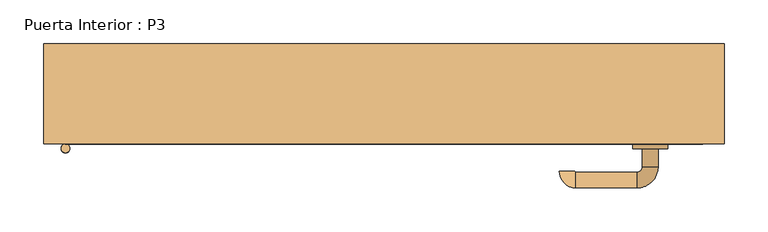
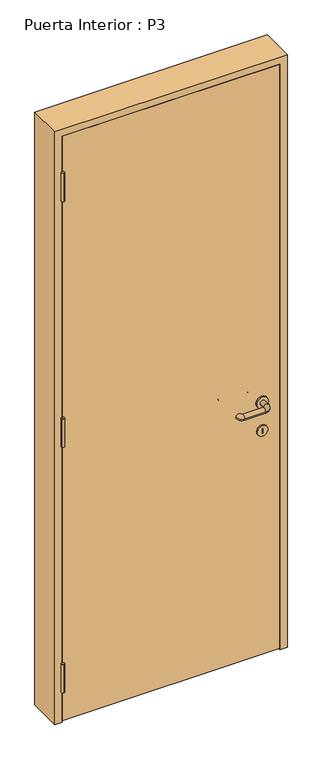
"""IFC4 building model written with IfcOpenShell, lengths in millimetres: door geometry, Puerta Interior : P3."""

from ifc_helpers import new_model, si_unit, point, frame, frame_2d, origin, place, context, project, spatial, polyline, circle_curve, ellipse_curve, trimmed, segment, composite_curve, outline, extrude, faceted_brep, source, transform, mapped, element, save
from ifc_brep_helpers import plane_surface, cylinder_surface, revolved_surface, advanced_brep


def puerta_interior_p3_e72d7386(model_context):
    return source(origin(), model_context, "Body", "SolidModel", [
        extrude(outline(composite_curve([segment(trimmed(circle_curve(frame_2d((900.0, 305.0)), 20.0), [point((900.0, 325.0))], [point((900.0, 285.0))], False, "CARTESIAN"), True, "CONTINUOUS"), segment(trimmed(circle_curve(frame_2d((900.0, 305.0)), 20.0), [point((900.0, 285.0))], [point((900.0, 325.0))], False, "CARTESIAN"), True, "CONTINUOUS")], self_intersect=False)), frame((0.0, -17.5, 0.0), z_axis=(0.0, 1.0, 0.0), x_axis=(0.0, 0.0, 1.0)), (0.0, 0.0, 1.0), 5.0),
        advanced_brep(
        [(296.0, -12.5, 900.0), (314.0, -12.5, 900.0), (314.0, 8.5, 900.0), (296.0, 8.5, 900.0), (290.0, 32.5, 900.0), (290.0, 14.5, 900.0), (219.797959, 32.5, 900.0), (219.797959, 14.5, 900.0), (218.797959, 13.5, 900.0), (200.797959, 13.5, 900.0)],
        [
            (0, 1, circle_curve(frame((305.0, -12.5, 900.0), z_axis=(0.0, -1.0, 0.0), x_axis=(1.0, 0.0, 0.0)), 9.0)),
            (1, 0, circle_curve(frame((305.0, -12.5, 900.0), z_axis=(0.0, -1.0, 0.0), x_axis=(1.0, 0.0, 0.0)), 9.0)),
            (1, 2),
            (2, 3, circle_curve(frame((305.0, 8.5, 900.0), z_axis=(0.0, -1.0, 0.0), x_axis=(1.0, 0.0, 0.0)), 9.0)),
            (3, 0),
            (3, 2, circle_curve(frame((305.0, 8.5, 900.0), z_axis=(0.0, -1.0, 0.0), x_axis=(1.0, 0.0, 0.0)), 9.0)),
            (4, 5, circle_curve(frame((290.0, 23.5, 900.0), z_axis=(1.0, 0.0, 0.0), x_axis=(0.0, 1.0, 0.0)), 9.0)),
            (5, 3, circle_curve(frame((290.0, 8.5, 900.0), z_axis=(0.0, 0.0, -1.0), x_axis=(1.0, 0.0, 0.0)), 6.0)),
            (2, 4, circle_curve(frame((290.0, 8.5, 900.0), z_axis=(0.0, 0.0, 1.0), x_axis=(1.0, 0.0, 0.0)), 24.0)),
            (5, 4, circle_curve(frame((290.0, 23.5, 900.0), z_axis=(1.0, 0.0, 0.0), x_axis=(0.0, 1.0, 0.0)), 9.0)),
            (4, 6),
            (6, 7, circle_curve(frame((219.797959, 23.5, 900.0), z_axis=(1.0, 0.0, 0.0), x_axis=(0.0, 1.0, 0.0)), 9.0)),
            (7, 5),
            (7, 6, circle_curve(frame((219.797959, 23.5, 900.0), z_axis=(1.0, 0.0, 0.0), x_axis=(0.0, 1.0, 0.0)), 9.0)),
            (8, 9, circle_curve(frame((209.797959, 13.5, 900.0), z_axis=(0.0, -1.0, 0.0), x_axis=(-1.0, 0.0, 0.0)), 9.0)),
            (9, 8, circle_curve(frame((209.797959, 13.5, 900.0), z_axis=(0.0, -1.0, 0.0), x_axis=(-1.0, 0.0, 0.0)), 9.0)),
            (8, 7, circle_curve(frame((219.797959, 13.5, 900.0), z_axis=(0.0, 0.0, -1.0), x_axis=(0.0, 1.0, 0.0)), 1.0)),
            (6, 9, circle_curve(frame((219.797959, 13.5, 900.0), z_axis=(0.0, 0.0, 1.0), x_axis=(0.0, 1.0, 0.0)), 19.0)),
        ],
        [
            plane_surface(frame((305.0, -12.5, 900.0), z_axis=(0.0, -1.0, 0.0), x_axis=(0.0, 0.0, 1.0))),
            cylinder_surface(frame((305.0, -12.5, 900.0), z_axis=(0.0, -1.0, 0.0), x_axis=(1.0, 0.0, 0.0)), 9.0),
            revolved_surface(trimmed(ellipse_curve(frame((305.0, 8.5, 900.0), z_axis=(0.0, 1.0, 0.0), x_axis=(1.0, 0.0, 0.0)), 9.0, 9.0), [point((296.0, 8.5, 900.0))], [point((314.0, 8.5, 900.0))], True, "CARTESIAN"), (290.0, 8.5, 900.0), (0.0, 0.0, -1.0)),
            revolved_surface(trimmed(ellipse_curve(frame((305.0, 8.5, 900.0), z_axis=(0.0, 1.0, 0.0), x_axis=(1.0, 0.0, 0.0)), 9.0, 9.0), [point((314.0, 8.5, 900.0))], [point((296.0, 8.5, 900.0))], True, "CARTESIAN"), (290.0, 8.5, 900.0), (0.0, 0.0, -1.0)),
            cylinder_surface(frame((290.0, 23.5, 900.0), z_axis=(1.0, 0.0, 0.0), x_axis=(0.0, 1.0, 0.0)), 9.0),
            plane_surface(frame((209.797959, 13.5, 900.0), z_axis=(0.0, -1.0, 0.0), x_axis=(0.0, 0.0, 1.0))),
            revolved_surface(trimmed(ellipse_curve(frame((219.797959, 23.5, 900.0), z_axis=(-1.0, 0.0, 0.0), x_axis=(0.0, 1.0, 0.0)), 9.0, 9.0), [point((219.797959, 14.5, 900.0))], [point((219.797959, 32.5, 900.0))], True, "CARTESIAN"), (219.797959, 13.5, 900.0), (0.0, 0.0, -1.0)),
            revolved_surface(trimmed(ellipse_curve(frame((219.797959, 23.5, 900.0), z_axis=(-1.0, 0.0, 0.0), x_axis=(0.0, 1.0, 0.0)), 9.0, 9.0), [point((219.797959, 32.5, 900.0))], [point((219.797959, 14.5, 900.0))], True, "CARTESIAN"), (219.797959, 13.5, 900.0), (0.0, 0.0, -1.0)),
        ],
        [
            (0, [[1, 2]]),
            (1, [[3, 4, 5, -2]]),
            (1, [[-5, 6, -3, -1]]),
            (2, [[7, 8, -4, 9]]),
            (3, [[10, -9, -6, -8]]),
            (4, [[11, 12, 13, -7]]),
            (4, [[-13, 14, -11, -10]]),
            (5, [[15, 16]]),
            (6, [[-15, 17, -12, 18]]),
            (7, [[-16, -18, -14, -17]]),
        ],
    ),
        extrude(outline(composite_curve([segment(trimmed(circle_curve(frame_2d((900.0, 305.0)), 20.0), [point((900.0, 325.0))], [point((900.0, 285.0))], False, "CARTESIAN"), True, "CONTINUOUS"), segment(trimmed(circle_curve(frame_2d((900.0, 305.0)), 20.0), [point((900.0, 285.0))], [point((900.0, 325.0))], False, "CARTESIAN"), True, "CONTINUOUS")], self_intersect=False)), frame((0.0, -62.5, 0.0), z_axis=(0.0, 1.0, 0.0), x_axis=(0.0, 0.0, 1.0)), (0.0, 0.0, 1.0), 5.0),
        advanced_brep(
        [(296.0, -62.5, 900.0), (314.0, -62.5, 900.0), (296.0, -83.5, 900.0), (314.0, -83.5, 900.0), (290.0, -107.5, 900.0), (290.0, -89.5, 900.0), (219.797959, -89.5, 900.0), (219.797959, -107.5, 900.0), (218.797959, -88.5, 900.0), (200.797959, -88.5, 900.0)],
        [
            (0, 1, circle_curve(frame((305.0, -62.5, 900.0), z_axis=(0.0, 1.0, 0.0), x_axis=(1.0, 0.0, 0.0)), 9.0)),
            (1, 0, circle_curve(frame((305.0, -62.5, 900.0), z_axis=(0.0, 1.0, 0.0), x_axis=(1.0, 0.0, 0.0)), 9.0)),
            (0, 2),
            (2, 3, circle_curve(frame((305.0, -83.5, 900.0), z_axis=(0.0, 1.0, 0.0), x_axis=(1.0, 0.0, 0.0)), 9.0)),
            (3, 1),
            (3, 2, circle_curve(frame((305.0, -83.5, 900.0), z_axis=(0.0, 1.0, 0.0), x_axis=(1.0, 0.0, 0.0)), 9.0)),
            (4, 3, circle_curve(frame((290.0, -83.5, 900.0), z_axis=(0.0, 0.0, 1.0), x_axis=(1.0, 0.0, 0.0)), 24.0)),
            (2, 5, circle_curve(frame((290.0, -83.5, 900.0), z_axis=(0.0, 0.0, -1.0), x_axis=(1.0, 0.0, 0.0)), 6.0)),
            (5, 4, circle_curve(frame((290.0, -98.5, 900.0), z_axis=(1.0, 0.0, 0.0), x_axis=(0.0, -1.0, 0.0)), 9.0)),
            (4, 5, circle_curve(frame((290.0, -98.5, 900.0), z_axis=(1.0, 0.0, 0.0), x_axis=(0.0, -1.0, 0.0)), 9.0)),
            (5, 6),
            (6, 7, circle_curve(frame((219.797959, -98.5, 900.0), z_axis=(1.0, 0.0, 0.0), x_axis=(0.0, -1.0, 0.0)), 9.0)),
            (7, 4),
            (7, 6, circle_curve(frame((219.797959, -98.5, 900.0), z_axis=(1.0, 0.0, 0.0), x_axis=(0.0, -1.0, 0.0)), 9.0)),
            (8, 9, circle_curve(frame((209.797959, -88.5, 900.0), z_axis=(0.0, 1.0, 0.0), x_axis=(-1.0, 0.0, 0.0)), 9.0)),
            (9, 8, circle_curve(frame((209.797959, -88.5, 900.0), z_axis=(0.0, 1.0, 0.0), x_axis=(-1.0, 0.0, 0.0)), 9.0)),
            (9, 7, circle_curve(frame((219.797959, -88.5, 900.0), z_axis=(0.0, 0.0, 1.0), x_axis=(0.0, -1.0, 0.0)), 19.0)),
            (6, 8, circle_curve(frame((219.797959, -88.5, 900.0), z_axis=(0.0, 0.0, -1.0), x_axis=(0.0, -1.0, 0.0)), 1.0)),
        ],
        [
            plane_surface(frame((305.0, -62.5, 900.0), z_axis=(0.0, 1.0, 0.0), x_axis=(0.0, 0.0, 1.0))),
            cylinder_surface(frame((305.0, -62.5, 900.0), z_axis=(0.0, 1.0, 0.0), x_axis=(1.0, 0.0, 0.0)), 9.0),
            revolved_surface(trimmed(ellipse_curve(frame((305.0, -83.5, 900.0), z_axis=(0.0, 1.0, 0.0), x_axis=(1.0, 0.0, 0.0)), 9.0, 9.0), [point((296.0, -83.5, 900.0))], [point((314.0, -83.5, 900.0))], True, "CARTESIAN"), (290.0, -83.5, 900.0), (0.0, 0.0, -1.0)),
            revolved_surface(trimmed(ellipse_curve(frame((305.0, -83.5, 900.0), z_axis=(0.0, 1.0, 0.0), x_axis=(1.0, 0.0, 0.0)), 9.0, 9.0), [point((314.0, -83.5, 900.0))], [point((296.0, -83.5, 900.0))], True, "CARTESIAN"), (290.0, -83.5, 900.0), (0.0, 0.0, -1.0)),
            cylinder_surface(frame((290.0, -98.5, 900.0), z_axis=(1.0, 0.0, 0.0), x_axis=(0.0, -1.0, 0.0)), 9.0),
            plane_surface(frame((209.797959, -88.5, 900.0), z_axis=(0.0, 1.0, 0.0), x_axis=(0.0, 0.0, 1.0))),
            revolved_surface(trimmed(ellipse_curve(frame((219.797959, -98.5, 900.0), z_axis=(1.0, 0.0, 0.0), x_axis=(0.0, -1.0, 0.0)), 9.0, 9.0), [point((219.797959, -89.5, 900.0))], [point((219.797959, -107.5, 900.0))], True, "CARTESIAN"), (219.797959, -88.5, 900.0), (0.0, 0.0, -1.0)),
            revolved_surface(trimmed(ellipse_curve(frame((219.797959, -98.5, 900.0), z_axis=(1.0, 0.0, 0.0), x_axis=(0.0, -1.0, 0.0)), 9.0, 9.0), [point((219.797959, -107.5, 900.0))], [point((219.797959, -89.5, 900.0))], True, "CARTESIAN"), (219.797959, -88.5, 900.0), (0.0, 0.0, -1.0)),
        ],
        [
            (0, [[1, 2]]),
            (1, [[-1, 3, 4, 5]]),
            (1, [[-2, -5, 6, -3]]),
            (2, [[7, -4, 8, 9]]),
            (3, [[-8, -6, -7, 10]]),
            (4, [[-9, 11, 12, 13]]),
            (4, [[-10, -13, 14, -11]]),
            (5, [[15, 16]]),
            (6, [[17, -12, 18, -16]]),
            (7, [[-18, -14, -17, -15]]),
        ],
    ),
        extrude(outline(composite_curve([segment(trimmed(circle_curve(frame_2d((800.0, 305.0)), 18.0), [point((800.0, 323.0))], [point((800.0, 287.0))], False, "CARTESIAN"), True, "CONTINUOUS"), segment(trimmed(circle_curve(frame_2d((800.0, 305.0)), 18.0), [point((800.0, 287.0))], [point((800.0, 323.0))], False, "CARTESIAN"), True, "CONTINUOUS")], self_intersect=False), holes=[polyline([(791.5189471, 305.9764977), (791.5189471, 304.0063037), (807.7059713, 304.0063037), (807.7059713, 305.9764977), (791.5189471, 305.9764977)])]), frame((0.0, -62.5, 0.0), z_axis=(0.0, 1.0, 0.0), x_axis=(0.0, 0.0, 1.0)), (0.0, 0.0, 1.0), 50.0),
        extrude(outline(polyline([(-365.0, -57.5), (-365.0, -17.5), (365.0, -17.5), (365.0, -57.5), (-365.0, -57.5)])), frame((0.0, 0.0, 5.0), z_axis=(0.0, 0.0, 1.0), x_axis=(1.0, 0.0, 0.0)), (0.0, 0.0, 1.0), 2070.0),
        faceted_brep([(365.0, -17.5, 0.0), (350.0, -17.5, 0.0), (350.0, 2.5, 0.0), (365.0, 2.5, 0.0), (365.0, 57.5, 0.0), (390.0, 57.5, 0.0), (390.0, -57.5, 0.0), (365.0, -57.5, 0.0), (365.0, -57.5, 2075.0), (365.0, -17.5, 2075.0), (390.0, -57.5, 2100.0), (-390.0, -57.5, 2100.0), (-390.0, -57.5, 0.0), (-365.0, -57.5, 0.0), (-365.0, -57.5, 2075.0), (390.0, 57.5, 2100.0), (365.0, 57.5, 2075.0), (-365.0, 57.5, 2075.0), (-365.0, 57.5, 0.0), (-390.0, 57.5, 0.0), (-390.0, 57.5, 2100.0), (365.0, 2.5, 2075.0), (350.0, 2.5, 2060.0), (-350.0, 2.5, 2060.0), (-350.0, 2.5, 0.0), (-365.0, 2.5, 0.0), (-365.0, 2.5, 2075.0), (350.0, -17.5, 2060.0), (-365.0, -17.5, 2075.0), (-365.0, -17.5, 0.0), (-350.0, -17.5, 0.0), (-350.0, -17.5, 2060.0)], [[[0, 1, 2, 3, 4, 5, 6, 7]], [[7, 8, 9, 0]], [[6, 10, 11, 12, 13, 14, 8, 7]], [[5, 15, 10, 6]], [[4, 16, 17, 18, 19, 20, 15, 5]], [[3, 21, 16, 4]], [[2, 22, 23, 24, 25, 26, 21, 3]], [[1, 27, 22, 2]], [[0, 9, 28, 29, 30, 31, 27, 1]], [[14, 13, 29, 28]], [[29, 13, 12, 19, 18, 25, 24, 30]], [[20, 19, 12, 11]], [[26, 25, 18, 17]], [[31, 30, 24, 23]], [[8, 14, 28, 9]], [[15, 20, 11, 10]], [[21, 26, 17, 16]], [[27, 31, 23, 22]]]),
        extrude(outline(composite_curve([segment(trimmed(circle_curve(frame_2d((-365.0, -62.5)), 5.0), [point((-365.0, -57.5))], [point((-365.0, -67.5))], False, "CARTESIAN"), True, "CONTINUOUS"), segment(trimmed(circle_curve(frame_2d((-365.0, -62.5)), 5.0), [point((-365.0, -67.5))], [point((-365.0, -57.5))], False, "CARTESIAN"), True, "CONTINUOUS")], self_intersect=False)), frame((0.0, 0.0, 1850.0), z_axis=(0.0, 0.0, 1.0), x_axis=(1.0, 0.0, 0.0)), (0.0, 0.0, 1.0), 100.0),
        extrude(outline(composite_curve([segment(trimmed(circle_curve(frame_2d((-365.0, -62.5)), 5.0), [point((-370.0, -62.5))], [point((-360.0, -62.5))], False, "CARTESIAN"), True, "CONTINUOUS"), segment(trimmed(circle_curve(frame_2d((-365.0, -62.5)), 5.0), [point((-360.0, -62.5))], [point((-370.0, -62.5))], False, "CARTESIAN"), True, "CONTINUOUS")], self_intersect=False)), frame((0.0, 0.0, 980.0), z_axis=(0.0, 0.0, 1.0), x_axis=(1.0, 0.0, 0.0)), (0.0, 0.0, 1.0), 100.0),
        extrude(outline(composite_curve([segment(trimmed(circle_curve(frame_2d((-365.0, -62.5)), 5.0), [point((-365.0, -57.5))], [point((-365.0, -67.5))], False, "CARTESIAN"), True, "CONTINUOUS"), segment(trimmed(circle_curve(frame_2d((-365.0, -62.5)), 5.0), [point((-365.0, -67.5))], [point((-365.0, -57.5))], False, "CARTESIAN"), True, "CONTINUOUS")], self_intersect=False)), frame((0.0, 0.0, 110.0), z_axis=(0.0, 0.0, 1.0), x_axis=(1.0, 0.0, 0.0)), (0.0, 0.0, 1.0), 100.0),
    ])


if __name__ == "__main__":
    model = new_model("IFC4")
    model_context = context("Model", 3, world=origin())
    ifc_project = project(units=[si_unit("LENGTHUNIT", "METRE", prefix="MILLI")], contexts=[model_context])
    site = spatial("IfcSite", under=ifc_project)
    building = spatial("IfcBuilding", under=site)
    placement = place(None, origin())
    puerta_interior_p3_shape = puerta_interior_p3_e72d7386(model_context)
    element("IfcDoor", 1, ObjectType="Puerta Interior : P3", at=placement, inside=building, context=model_context, shape_type="MappedRepresentation", body=[
        mapped(puerta_interior_p3_shape, transform((0.0, 0.0, 0.0), x_axis=(1.0, 0.0, 0.0), y_axis=(0.0, 1.0, 0.0), z_axis=(0.0, 0.0, 1.0))),
    ])
    save(model, "model.ifc")
